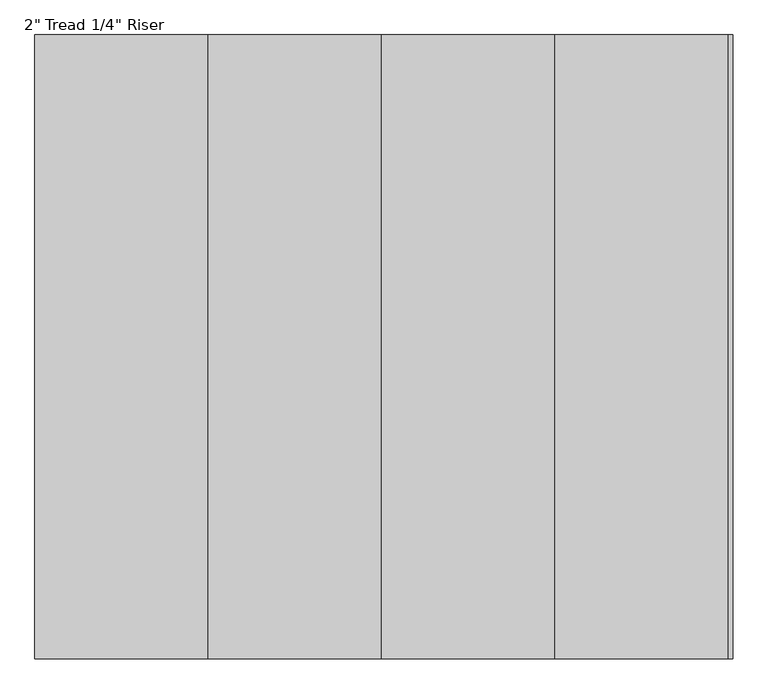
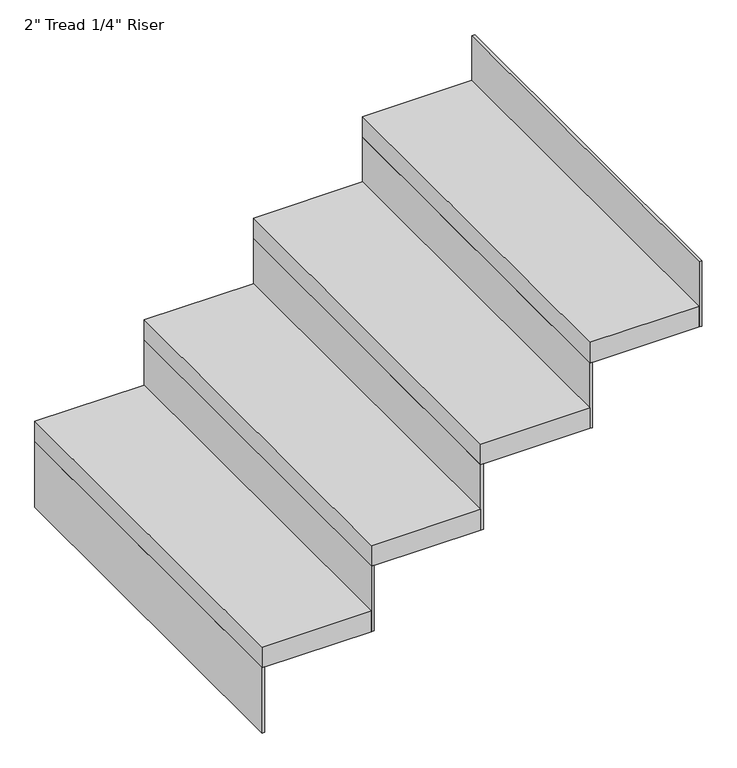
"""IFC4 building model written with IfcOpenShell, lengths in millimetres: stair flight geometry."""

from ifc_helpers import new_model, si_unit, frame, origin, place, context, project, spatial, polyline, outline, extrude, source, transform, mapped, element, save


def stair_flight_1632b0e1(model_context):
    return source(origin(), model_context, "Body", "SweptSolid", [
        extrude(outline(polyline([(164563.5525866, -35593.481782), (164557.2025866, -35593.481782), (164557.2025866, -34679.081782), (164563.5525866, -34679.081782), (164563.5525866, -35593.481782)])), frame((0.0, 0.0, 2195.0947368), z_axis=(0.0, 0.0, 1.0), x_axis=(1.0, 0.0, 0.0)), (0.0, 0.0, 1.0), 160.4210526),
        extrude(outline(polyline([(164811.2025866, -34679.081782), (164811.2025866, -35593.481782), (164557.2025866, -35593.481782), (164557.2025866, -34679.081782), (164811.2025866, -34679.081782)])), frame((0.0, 0.0, 2355.5157895), z_axis=(0.0, 0.0, 1.0), x_axis=(1.0, 0.0, 0.0)), (0.0, 0.0, 1.0), 50.8),
        extrude(outline(polyline([(164817.5525866, -35593.481782), (164811.2025866, -35593.481782), (164811.2025866, -34679.081782), (164817.5525866, -34679.081782), (164817.5525866, -35593.481782)])), frame((0.0, 0.0, 2355.5157895), z_axis=(0.0, 0.0, 1.0), x_axis=(1.0, 0.0, 0.0)), (0.0, 0.0, 1.0), 160.4210526),
        extrude(outline(polyline([(165065.2025866, -34679.081782), (165065.2025866, -35593.481782), (164811.2025866, -35593.481782), (164811.2025866, -34679.081782), (165065.2025866, -34679.081782)])), frame((0.0, 0.0, 2515.9368421), z_axis=(0.0, 0.0, 1.0), x_axis=(1.0, 0.0, 0.0)), (0.0, 0.0, 1.0), 50.8),
        extrude(outline(polyline([(165071.5525866, -35593.481782), (165065.2025866, -35593.481782), (165065.2025866, -34679.081782), (165071.5525866, -34679.081782), (165071.5525866, -35593.481782)])), frame((0.0, 0.0, 2515.9368421), z_axis=(0.0, 0.0, 1.0), x_axis=(1.0, 0.0, 0.0)), (0.0, 0.0, 1.0), 160.4210526),
        extrude(outline(polyline([(165319.2025866, -34679.081782), (165319.2025866, -35593.481782), (165065.2025866, -35593.481782), (165065.2025866, -34679.081782), (165319.2025866, -34679.081782)])), frame((0.0, 0.0, 2676.3578947), z_axis=(0.0, 0.0, 1.0), x_axis=(1.0, 0.0, 0.0)), (0.0, 0.0, 1.0), 50.8),
        extrude(outline(polyline([(165325.5525866, -35593.481782), (165319.2025866, -35593.481782), (165319.2025866, -34679.081782), (165325.5525866, -34679.081782), (165325.5525866, -35593.481782)])), frame((0.0, 0.0, 2676.3578947), z_axis=(0.0, 0.0, 1.0), x_axis=(1.0, 0.0, 0.0)), (0.0, 0.0, 1.0), 160.4210526),
        extrude(outline(polyline([(165579.5525866, -35593.481782), (165573.2025866, -35593.481782), (165573.2025866, -34679.081782), (165579.5525866, -34679.081782), (165579.5525866, -35593.481782)])), frame((0.0, 0.0, 2836.7789474), z_axis=(0.0, 0.0, 1.0), x_axis=(1.0, 0.0, 0.0)), (0.0, 0.0, 1.0), 160.4210526),
        extrude(outline(polyline([(165573.2025866, -34679.081782), (165573.2025866, -35593.481782), (165319.2025866, -35593.481782), (165319.2025866, -34679.081782), (165573.2025866, -34679.081782)])), frame((0.0, 0.0, 2836.7789474), z_axis=(0.0, 0.0, 1.0), x_axis=(1.0, 0.0, 0.0)), (0.0, 0.0, 1.0), 50.8),
    ])


if __name__ == "__main__":
    model = new_model("IFC4")
    model_context = context("Model", 3, world=origin())
    ifc_project = project(units=[si_unit("LENGTHUNIT", "METRE", prefix="MILLI")], contexts=[model_context])
    site = spatial("IfcSite", under=ifc_project)
    building = spatial("IfcBuilding", under=site)
    placement = place(None, origin())
    stair_flight_shape = stair_flight_1632b0e1(model_context)
    element("IfcStairFlight", 1, ObjectType="2\" Tread 1/4\" Riser", at=placement, inside=building, context=model_context, shape_type="MappedRepresentation", body=[
        mapped(stair_flight_shape, transform((0.0, 0.0, 0.0), x_axis=(1.0, 0.0, 0.0), y_axis=(0.0, 1.0, 0.0), z_axis=(0.0, 0.0, 1.0))),
    ])
    save(model, "model.ifc")
